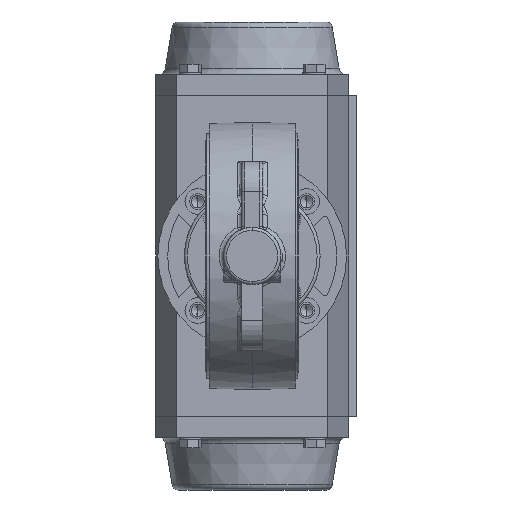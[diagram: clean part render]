
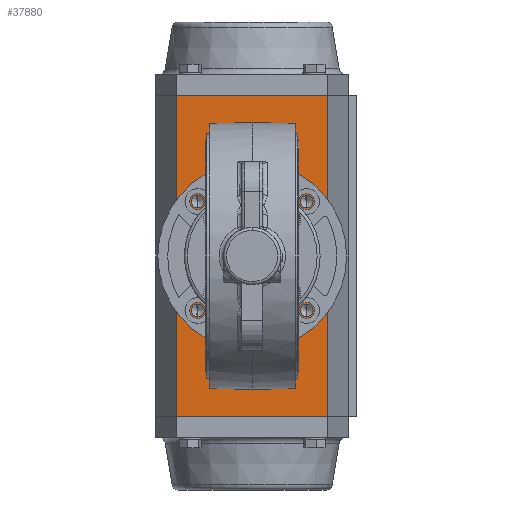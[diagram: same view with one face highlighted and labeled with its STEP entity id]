
A CAD part, front view. The second image highlights one B-rep face of the part: STEP entity #37880.
In plain terms, the highlighted planar face has unit normal (0, -1, 0).
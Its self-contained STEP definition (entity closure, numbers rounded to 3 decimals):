
#305 = EDGE_CURVE ( 'NONE', #8463, #6210, #32643, .T. ) ;
#733 = CARTESIAN_POINT ( 'NONE',  ( -36.062, -71., 36.062 ) ) ;
#967 = CARTESIAN_POINT ( 'NONE',  ( -50., -71., 106. ) ) ;
#1103 = VERTEX_POINT ( 'NONE', #32963 ) ;
#1108 = LINE ( 'NONE', #26959, #37342 ) ;
#1240 = EDGE_CURVE ( 'NONE', #13738, #27027, #29346, .T. ) ;
#1689 = VERTEX_POINT ( 'NONE', #5873 ) ;
#2043 = ORIENTED_EDGE ( 'NONE', *, *, #42292, .F. ) ;
#2322 = DIRECTION ( 'NONE',  ( 0., -1., 0. ) ) ;
#3434 = EDGE_CURVE ( 'NONE', #27027, #13738, #37310, .T. ) ;
#3502 = CIRCLE ( 'NONE', #24771, 35. ) ;
#3511 = CARTESIAN_POINT ( 'NONE',  ( -50., -71., -106. ) ) ;
#4132 = DIRECTION ( 'NONE',  ( 0., 0., -1. ) ) ;
#5480 = CARTESIAN_POINT ( 'NONE',  ( 50., -71., 106. ) ) ;
#5872 = ORIENTED_EDGE ( 'NONE', *, *, #31467, .F. ) ;
#5873 = CARTESIAN_POINT ( 'NONE',  ( 36.062, -71., 40.312 ) ) ;
#6210 = VERTEX_POINT ( 'NONE', #15351 ) ;
#6298 = FACE_BOUND ( 'NONE', #12911, .T. ) ;
#6545 = DIRECTION ( 'NONE',  ( 1., 0., 0. ) ) ;
#7665 = CARTESIAN_POINT ( 'NONE',  ( 36.062, -71., -40.312 ) ) ;
#7713 = CARTESIAN_POINT ( 'NONE',  ( -36.062, -71., 40.312 ) ) ;
#7807 = CARTESIAN_POINT ( 'NONE',  ( 0., -71., 0. ) ) ;
#8425 = DIRECTION ( 'NONE',  ( 0., -1., 0. ) ) ;
#8463 = VERTEX_POINT ( 'NONE', #7713 ) ;
#8747 = AXIS2_PLACEMENT_3D ( 'NONE', #733, #24618, #4132 ) ;
#9370 = CARTESIAN_POINT ( 'NONE',  ( -50., -71., 106. ) ) ;
#9480 = VERTEX_POINT ( 'NONE', #31956 ) ;
#10369 = AXIS2_PLACEMENT_3D ( 'NONE', #13113, #36982, #16606 ) ;
#10384 = CARTESIAN_POINT ( 'NONE',  ( -36.062, -71., -40.312 ) ) ;
#10405 = CARTESIAN_POINT ( 'NONE',  ( -50., -71., -106. ) ) ;
#10487 = VERTEX_POINT ( 'NONE', #967 ) ;
#10751 = ORIENTED_EDGE ( 'NONE', *, *, #25858, .F. ) ;
#10813 = ORIENTED_EDGE ( 'NONE', *, *, #3434, .F. ) ;
#10840 = DIRECTION ( 'NONE',  ( 0., -1., 0. ) ) ;
#11234 = DIRECTION ( 'NONE',  ( 0., 0., -1. ) ) ;
#11571 = VERTEX_POINT ( 'NONE', #18443 ) ;
#12128 = LINE ( 'NONE', #39599, #38212 ) ;
#12298 = LINE ( 'NONE', #16698, #38404 ) ;
#12837 = EDGE_CURVE ( 'NONE', #10487, #28877, #25507, .T. ) ;
#12911 = EDGE_LOOP ( 'NONE', ( #19769, #37122 ) ) ;
#12985 = DIRECTION ( 'NONE',  ( 0., -1., 0. ) ) ;
#13113 = CARTESIAN_POINT ( 'NONE',  ( 36.062, -71., 36.062 ) ) ;
#13263 = CIRCLE ( 'NONE', #10369, 4.25 ) ;
#13292 = EDGE_LOOP ( 'NONE', ( #10813, #39824 ) ) ;
#13738 = VERTEX_POINT ( 'NONE', #38442 ) ;
#14244 = EDGE_LOOP ( 'NONE', ( #37482, #31891, #19649, #37297 ) ) ;
#14262 = EDGE_CURVE ( 'NONE', #6210, #8463, #32882, .T. ) ;
#14283 = FACE_BOUND ( 'NONE', #16374, .T. ) ;
#14422 = EDGE_CURVE ( 'NONE', #9480, #40059, #3502, .T. ) ;
#15139 = DIRECTION ( 'NONE',  ( 0., -1., 0. ) ) ;
#15351 = CARTESIAN_POINT ( 'NONE',  ( -36.062, -71., 31.812 ) ) ;
#15662 = DIRECTION ( 'NONE',  ( 0., -1., 0. ) ) ;
#16374 = EDGE_LOOP ( 'NONE', ( #5872, #24017 ) ) ;
#16414 = VECTOR ( 'NONE', #33370, 1000. ) ;
#16606 = DIRECTION ( 'NONE',  ( 0., 0., -1. ) ) ;
#16698 = CARTESIAN_POINT ( 'NONE',  ( -50., -71., -106. ) ) ;
#17142 = CARTESIAN_POINT ( 'NONE',  ( -36.062, -71., -36.062 ) ) ;
#17191 = ORIENTED_EDGE ( 'NONE', *, *, #14262, .F. ) ;
#17205 = CIRCLE ( 'NONE', #23958, 35. ) ;
#17237 = DIRECTION ( 'NONE',  ( 0., -1., 0. ) ) ;
#18282 = EDGE_CURVE ( 'NONE', #43036, #10487, #12298, .T. ) ;
#18443 = CARTESIAN_POINT ( 'NONE',  ( 50., -71., -106. ) ) ;
#19191 = DIRECTION ( 'NONE',  ( 0., 0., 1. ) ) ;
#19649 = ORIENTED_EDGE ( 'NONE', *, *, #18282, .F. ) ;
#19769 = ORIENTED_EDGE ( 'NONE', *, *, #21475, .F. ) ;
#20524 = PLANE ( 'NONE',  #33184 ) ;
#20565 = DIRECTION ( 'NONE',  ( 0., 0., -1. ) ) ;
#21475 = EDGE_CURVE ( 'NONE', #40059, #9480, #17205, .T. ) ;
#22009 = CIRCLE ( 'NONE', #24708, 4.25 ) ;
#22338 = FACE_OUTER_BOUND ( 'NONE', #14244, .T. ) ;
#22742 = CARTESIAN_POINT ( 'NONE',  ( -36.062, -71., -36.062 ) ) ;
#23384 = FACE_BOUND ( 'NONE', #28718, .T. ) ;
#23958 = AXIS2_PLACEMENT_3D ( 'NONE', #7807, #31658, #11234 ) ;
#24017 = ORIENTED_EDGE ( 'NONE', *, *, #28463, .F. ) ;
#24045 = VERTEX_POINT ( 'NONE', #7665 ) ;
#24618 = DIRECTION ( 'NONE',  ( 0., -1., 0. ) ) ;
#24708 = AXIS2_PLACEMENT_3D ( 'NONE', #35542, #15139, #38943 ) ;
#24771 = AXIS2_PLACEMENT_3D ( 'NONE', #36044, #15662, #39466 ) ;
#25507 = LINE ( 'NONE', #9370, #16414 ) ;
#25858 = EDGE_CURVE ( 'NONE', #43230, #24045, #27526, .T. ) ;
#26184 = DIRECTION ( 'NONE',  ( 0., 0., -1. ) ) ;
#26959 = CARTESIAN_POINT ( 'NONE',  ( -50., -71., -106. ) ) ;
#27027 = VERTEX_POINT ( 'NONE', #10384 ) ;
#27526 = CIRCLE ( 'NONE', #39037, 4.25 ) ;
#28463 = EDGE_CURVE ( 'NONE', #1689, #1103, #40681, .T. ) ;
#28718 = EDGE_LOOP ( 'NONE', ( #2043, #10751 ) ) ;
#28876 = CARTESIAN_POINT ( 'NONE',  ( -36.062, -71., 36.062 ) ) ;
#28877 = VERTEX_POINT ( 'NONE', #5480 ) ;
#29346 = CIRCLE ( 'NONE', #40228, 4.25 ) ;
#30336 = ORIENTED_EDGE ( 'NONE', *, *, #305, .F. ) ;
#30549 = EDGE_CURVE ( 'NONE', #43036, #11571, #1108, .T. ) ;
#31270 = CARTESIAN_POINT ( 'NONE',  ( 36.062, -71., 36.062 ) ) ;
#31366 = FACE_BOUND ( 'NONE', #35782, .T. ) ;
#31467 = EDGE_CURVE ( 'NONE', #1103, #1689, #13263, .T. ) ;
#31658 = DIRECTION ( 'NONE',  ( 0., -1., 0. ) ) ;
#31891 = ORIENTED_EDGE ( 'NONE', *, *, #12837, .F. ) ;
#31956 = CARTESIAN_POINT ( 'NONE',  ( 0., -71., 35. ) ) ;
#32281 = DIRECTION ( 'NONE',  ( 0., 0., -1. ) ) ;
#32460 = FACE_BOUND ( 'NONE', #13292, .T. ) ;
#32643 = CIRCLE ( 'NONE', #36775, 4.25 ) ;
#32665 = EDGE_CURVE ( 'NONE', #11571, #28877, #12128, .T. ) ;
#32882 = CIRCLE ( 'NONE', #8747, 4.25 ) ;
#32963 = CARTESIAN_POINT ( 'NONE',  ( 36.062, -71., 31.812 ) ) ;
#33184 = AXIS2_PLACEMENT_3D ( 'NONE', #3511, #17237, #41047 ) ;
#33370 = DIRECTION ( 'NONE',  ( 1., 0., 0. ) ) ;
#33417 = CARTESIAN_POINT ( 'NONE',  ( 36.062, -71., -36.062 ) ) ;
#34696 = DIRECTION ( 'NONE',  ( 0., 0., -1. ) ) ;
#35334 = CARTESIAN_POINT ( 'NONE',  ( 0., -71., -35. ) ) ;
#35542 = CARTESIAN_POINT ( 'NONE',  ( 36.062, -71., -36.062 ) ) ;
#35761 = CARTESIAN_POINT ( 'NONE',  ( 36.062, -71., -31.812 ) ) ;
#35782 = EDGE_LOOP ( 'NONE', ( #17191, #30336 ) ) ;
#36044 = CARTESIAN_POINT ( 'NONE',  ( 0., -71., 0. ) ) ;
#36775 = AXIS2_PLACEMENT_3D ( 'NONE', #28876, #8425, #32281 ) ;
#36849 = DIRECTION ( 'NONE',  ( 0., 0., -1. ) ) ;
#36982 = DIRECTION ( 'NONE',  ( 0., -1., 0. ) ) ;
#37122 = ORIENTED_EDGE ( 'NONE', *, *, #14422, .F. ) ;
#37297 = ORIENTED_EDGE ( 'NONE', *, *, #30549, .T. ) ;
#37310 = CIRCLE ( 'NONE', #39463, 4.25 ) ;
#37342 = VECTOR ( 'NONE', #6545, 1000. ) ;
#37482 = ORIENTED_EDGE ( 'NONE', *, *, #32665, .T. ) ;
#37880 = ADVANCED_FACE ( 'NONE', ( #6298, #14283, #23384, #32460, #31366, #22338 ), #20524, .T. ) ;
#38212 = VECTOR ( 'NONE', #19191, 1000. ) ;
#38404 = VECTOR ( 'NONE', #40490, 1000. ) ;
#38442 = CARTESIAN_POINT ( 'NONE',  ( -36.062, -71., -31.812 ) ) ;
#38943 = DIRECTION ( 'NONE',  ( 0., 0., -1. ) ) ;
#39037 = AXIS2_PLACEMENT_3D ( 'NONE', #33417, #12985, #36849 ) ;
#39463 = AXIS2_PLACEMENT_3D ( 'NONE', #22742, #2322, #26184 ) ;
#39466 = DIRECTION ( 'NONE',  ( 0., 0., -1. ) ) ;
#39599 = CARTESIAN_POINT ( 'NONE',  ( 50., -71., -106. ) ) ;
#39698 = AXIS2_PLACEMENT_3D ( 'NONE', #31270, #10840, #34696 ) ;
#39824 = ORIENTED_EDGE ( 'NONE', *, *, #1240, .F. ) ;
#40059 = VERTEX_POINT ( 'NONE', #35334 ) ;
#40228 = AXIS2_PLACEMENT_3D ( 'NONE', #17142, #40925, #20565 ) ;
#40490 = DIRECTION ( 'NONE',  ( 0., 0., 1. ) ) ;
#40681 = CIRCLE ( 'NONE', #39698, 4.25 ) ;
#40925 = DIRECTION ( 'NONE',  ( 0., -1., 0. ) ) ;
#41047 = DIRECTION ( 'NONE',  ( 0., 0., -1. ) ) ;
#42292 = EDGE_CURVE ( 'NONE', #24045, #43230, #22009, .T. ) ;
#43036 = VERTEX_POINT ( 'NONE', #10405 ) ;
#43230 = VERTEX_POINT ( 'NONE', #35761 ) ;
